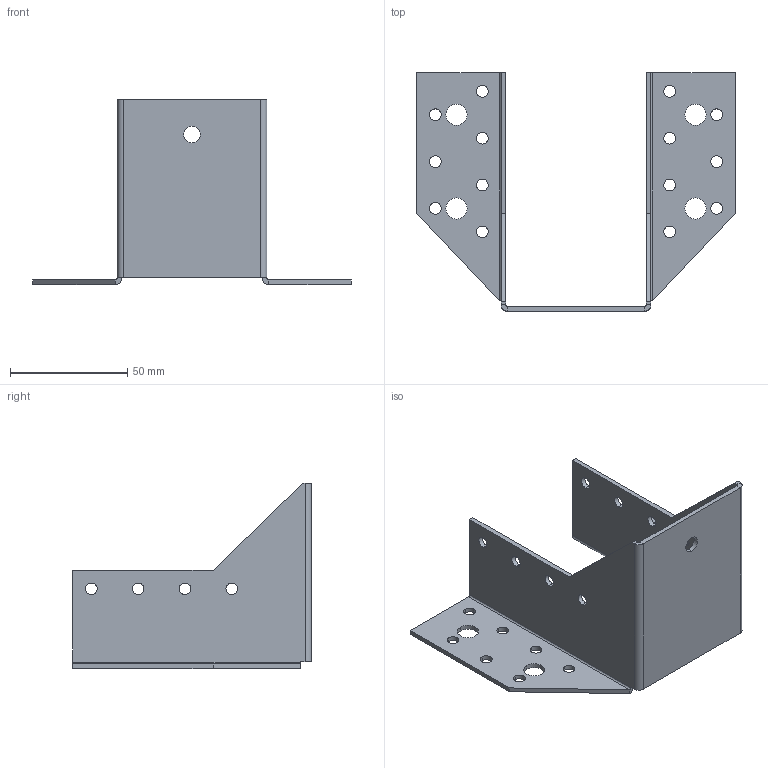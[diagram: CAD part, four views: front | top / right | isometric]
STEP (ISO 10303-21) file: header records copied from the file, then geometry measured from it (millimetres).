
FILE_DESCRIPTION (( 'STEP AP203' ), '1' );
FILE_NAME ('30502KA4.STEP', '2021-03-04T12:33:18', ( '' ), ( '' ), 'SwSTEP 2.0', 'SolidWorks 2013', '' );
FILE_SCHEMA (( 'CONFIG_CONTROL_DESIGN' ));
Length unit declared in the file: millimetre
Products named in the file (1): 30502KA4
Bounding box: 136 x 102 x 79 mm (x, y, z)
Volume: 39011.8 mm3; surface area: 41460.6 mm2
Topology: 1 solids, 1 shells, 98 faces, 260 edges, 164 vertices
Faces by surface type: cylinder 62, plane 36
Entity records: 3251 total; most frequent: DIRECTION 582, CARTESIAN_POINT 523, ORIENTED_EDGE 520, EDGE_CURVE 260, AXIS2_PLACEMENT_3D 223, VERTEX_POINT 164, EDGE_LOOP 152, VECTOR 136
